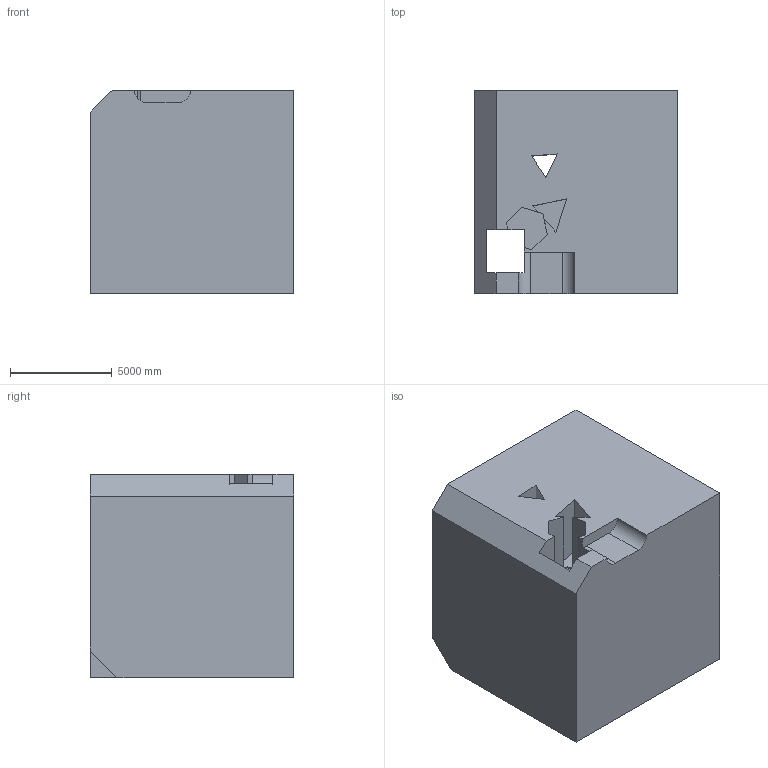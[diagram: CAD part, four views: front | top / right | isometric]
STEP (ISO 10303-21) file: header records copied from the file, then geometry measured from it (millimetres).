
FILE_DESCRIPTION (( 'STEP AP203' ), '1' );
FILE_NAME ('744.STEP', '2022-07-29T12:54:09', ( 'user' ), ( '' ), 'SwSTEP 2.0', 'SolidWorks 2021', '' );
FILE_SCHEMA (( 'CONFIG_CONTROL_DESIGN' ));
Length unit declared in the file: centimetre
Products named in the file (1): 744
Bounding box: 10000 x 10000 x 10000 mm (x, y, z)
Volume: 920559202481.8 mm3; surface area: 731476365.2 mm2
Topology: 1 solids, 1 shells, 38 faces, 108 edges, 72 vertices
Faces by surface type: plane 36, cylinder 2
Entity records: 1302 total; most frequent: CARTESIAN_POINT 219, ORIENTED_EDGE 216, DIRECTION 191, EDGE_CURVE 108, LINE 103, VECTOR 103, VERTEX_POINT 72, AXIS2_PLACEMENT_3D 44
